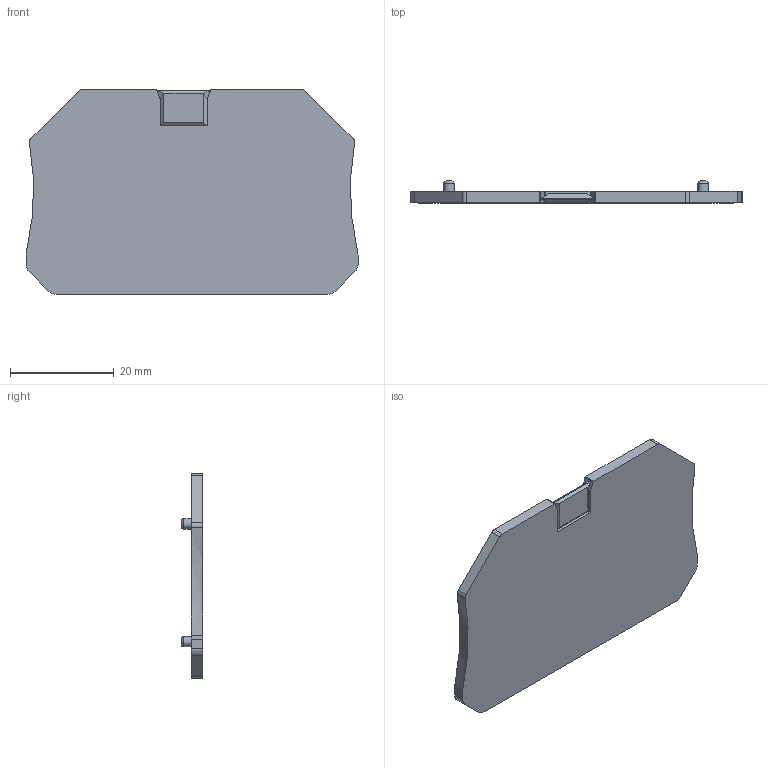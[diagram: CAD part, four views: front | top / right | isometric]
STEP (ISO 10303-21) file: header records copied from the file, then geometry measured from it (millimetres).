
FILE_DESCRIPTION( ('This file contains a STEP AP42 implementation' ,'as created by ZW3D STEP Interface translator.') ,'2;1' );
FILE_NAME( 'D-TUR-2.5-QUATTRO.stp' ,'24 726.112353', (''), ('ZWCAD Software Co.'), 'Version 1.0', 'ZW3D to STEP translator', '' );
FILE_SCHEMA(('AUTOMOTIVE_DESIGN { 1 0 10303 214 1 1 1 1 }'));
Length unit declared in the file: millimetre
Products named in the file (2): 0; D-RUT2.5-QUATTRO
Bounding box: 64 x 4.2 x 39.5 mm (x, y, z)
Volume: 5133.1 mm3; surface area: 5188.8 mm2
Topology: 1 solids, 1 shells, 64 faces, 162 edges, 104 vertices
Faces by surface type: plane 38, cylinder 20, bspline 6
Full cylindrical faces by diameter (mm): 2 x4
Entity records: 4876 total; most frequent: CARTESIAN_POINT 3277, ORIENTED_EDGE 324, DIRECTION 294, EDGE_CURVE 162, VERTEX_POINT 104, VECTOR 104, LINE 104, AXIS2_PLACEMENT_3D 95
